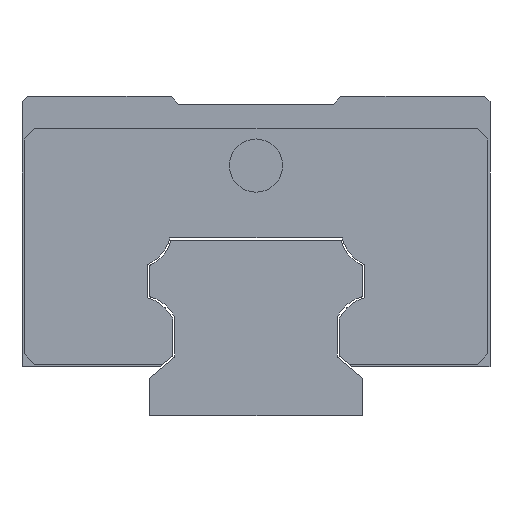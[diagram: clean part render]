
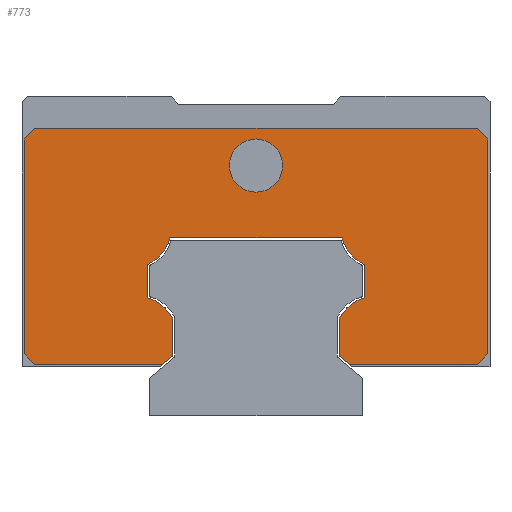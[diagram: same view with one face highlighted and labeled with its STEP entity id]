
A CAD part, left-side view. The second image highlights one B-rep face of the part: STEP entity #773.
In plain terms, the highlighted planar face has unit normal (-1, 0, 0).
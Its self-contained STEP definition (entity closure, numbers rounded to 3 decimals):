
#588=FACE_BOUND('',#1059,.T.);
#589=FACE_BOUND('',#1060,.T.);
#773=ADVANCED_FACE('',(#588,#589),#899,.F.);
#899=PLANE('',#2773);
#1059=EDGE_LOOP('',(#1426));
#1060=EDGE_LOOP('',(#1427,#1428,#1429,#1430,#1431,#1432,#1433,#1434,#1435,
#1436,#1437,#1438,#1439,#1440,#1441,#1442,#1443,#1444,#1445,#1446));
#1240=CIRCLE('',#2757,3.7);
#1241=CIRCLE('',#2760,3.7);
#1242=CIRCLE('',#2763,3.7);
#1243=CIRCLE('',#2766,3.7);
#1244=CIRCLE('',#2772,2.5);
#1426=ORIENTED_EDGE('',*,*,#2175,.F.);
#1427=ORIENTED_EDGE('',*,*,#2173,.F.);
#1428=ORIENTED_EDGE('',*,*,#2176,.T.);
#1429=ORIENTED_EDGE('',*,*,#2168,.F.);
#1430=ORIENTED_EDGE('',*,*,#2167,.F.);
#1431=ORIENTED_EDGE('',*,*,#2160,.F.);
#1432=ORIENTED_EDGE('',*,*,#2154,.F.);
#1433=ORIENTED_EDGE('',*,*,#2153,.F.);
#1434=ORIENTED_EDGE('',*,*,#2145,.F.);
#1435=ORIENTED_EDGE('',*,*,#2144,.F.);
#1436=ORIENTED_EDGE('',*,*,#2136,.F.);
#1437=ORIENTED_EDGE('',*,*,#2135,.F.);
#1438=ORIENTED_EDGE('',*,*,#2127,.F.);
#1439=ORIENTED_EDGE('',*,*,#2125,.F.);
#1440=ORIENTED_EDGE('',*,*,#2120,.F.);
#1441=ORIENTED_EDGE('',*,*,#2112,.F.);
#1442=ORIENTED_EDGE('',*,*,#2177,.T.);
#1443=ORIENTED_EDGE('',*,*,#2108,.F.);
#1444=ORIENTED_EDGE('',*,*,#2178,.T.);
#1445=ORIENTED_EDGE('',*,*,#2104,.F.);
#1446=ORIENTED_EDGE('',*,*,#2179,.T.);
#1900=VERTEX_POINT('',#3629);
#1901=VERTEX_POINT('',#3631);
#1904=VERTEX_POINT('',#3638);
#1905=VERTEX_POINT('',#3640);
#1908=VERTEX_POINT('',#3647);
#1909=VERTEX_POINT('',#3649);
#1910=VERTEX_POINT('',#3653);
#1916=VERTEX_POINT('',#3667);
#1921=VERTEX_POINT('',#3679);
#1922=VERTEX_POINT('',#3683);
#1927=VERTEX_POINT('',#3696);
#1928=VERTEX_POINT('',#3700);
#1933=VERTEX_POINT('',#3713);
#1934=VERTEX_POINT('',#3717);
#1939=VERTEX_POINT('',#3730);
#1940=VERTEX_POINT('',#3734);
#1944=VERTEX_POINT('',#3744);
#1950=VERTEX_POINT('',#3758);
#1954=VERTEX_POINT('',#3767);
#1955=VERTEX_POINT('',#3769);
#1956=VERTEX_POINT('',#3773);
#2104=EDGE_CURVE('',#1900,#1901,#2381,.T.);
#2108=EDGE_CURVE('',#1904,#1905,#2385,.T.);
#2112=EDGE_CURVE('',#1908,#1909,#2389,.T.);
#2120=EDGE_CURVE('',#1909,#1910,#2397,.T.);
#2125=EDGE_CURVE('',#1910,#1916,#2402,.T.);
#2127=EDGE_CURVE('',#1916,#1921,#1240,.T.);
#2135=EDGE_CURVE('',#1921,#1922,#2410,.T.);
#2136=EDGE_CURVE('',#1922,#1927,#1241,.T.);
#2144=EDGE_CURVE('',#1927,#1928,#2418,.T.);
#2145=EDGE_CURVE('',#1928,#1933,#1242,.T.);
#2153=EDGE_CURVE('',#1933,#1934,#2426,.T.);
#2154=EDGE_CURVE('',#1934,#1939,#1243,.T.);
#2160=EDGE_CURVE('',#1939,#1940,#2432,.T.);
#2167=EDGE_CURVE('',#1940,#1944,#2439,.T.);
#2168=EDGE_CURVE('',#1944,#1950,#2440,.T.);
#2173=EDGE_CURVE('',#1954,#1955,#2445,.T.);
#2175=EDGE_CURVE('',#1956,#1956,#1244,.T.);
#2176=EDGE_CURVE('',#1954,#1950,#2447,.T.);
#2177=EDGE_CURVE('',#1908,#1905,#2448,.T.);
#2178=EDGE_CURVE('',#1904,#1901,#2449,.T.);
#2179=EDGE_CURVE('',#1900,#1955,#2450,.T.);
#2381=LINE('',#3630,#2565);
#2385=LINE('',#3639,#2569);
#2389=LINE('',#3648,#2573);
#2397=LINE('',#3664,#2581);
#2402=LINE('',#3674,#2586);
#2410=LINE('',#3693,#2594);
#2418=LINE('',#3710,#2602);
#2426=LINE('',#3727,#2610);
#2432=LINE('',#3741,#2616);
#2439=LINE('',#3755,#2623);
#2440=LINE('',#3757,#2624);
#2445=LINE('',#3768,#2629);
#2447=LINE('',#3774,#2631);
#2448=LINE('',#3775,#2632);
#2449=LINE('',#3776,#2633);
#2450=LINE('',#3777,#2634);
#2565=VECTOR('',#2990,1.);
#2569=VECTOR('',#2996,1.);
#2573=VECTOR('',#3002,1.);
#2581=VECTOR('',#3012,1.);
#2586=VECTOR('',#3019,1.);
#2594=VECTOR('',#3035,1.);
#2602=VECTOR('',#3049,1.);
#2610=VECTOR('',#3063,1.);
#2616=VECTOR('',#3075,1.);
#2623=VECTOR('',#3084,1.);
#2624=VECTOR('',#3087,1.);
#2629=VECTOR('',#3094,1.);
#2631=VECTOR('',#3100,1.);
#2632=VECTOR('',#3101,1.);
#2633=VECTOR('',#3102,1.);
#2634=VECTOR('',#3103,1.);
#2757=AXIS2_PLACEMENT_3D('',#3678,#3024,#3025);
#2760=AXIS2_PLACEMENT_3D('',#3695,#3038,#3039);
#2763=AXIS2_PLACEMENT_3D('',#3712,#3052,#3053);
#2766=AXIS2_PLACEMENT_3D('',#3729,#3066,#3067);
#2772=AXIS2_PLACEMENT_3D('',#3772,#3098,#3099);
#2773=AXIS2_PLACEMENT_3D('',#3778,#3104,#3105);
#2990=DIRECTION('',(0.,-1.,0.));
#2996=DIRECTION('',(0.,0.,-1.));
#3002=DIRECTION('',(0.,1.,0.));
#3012=DIRECTION('',(0.,0.766,0.643));
#3019=DIRECTION('',(0.,0.,1.));
#3024=DIRECTION('',(1.,0.,0.));
#3025=DIRECTION('',(0.,1.,0.));
#3035=DIRECTION('',(0.,0.,1.));
#3038=DIRECTION('',(1.,0.,0.));
#3039=DIRECTION('',(0.,1.,0.));
#3049=DIRECTION('',(0.,1.,0.));
#3052=DIRECTION('',(1.,0.,0.));
#3053=DIRECTION('',(0.,-1.,0.));
#3063=DIRECTION('',(0.,0.,-1.));
#3066=DIRECTION('',(1.,0.,0.));
#3067=DIRECTION('',(0.,-1.,0.));
#3075=DIRECTION('',(0.,0.,-1.));
#3084=DIRECTION('',(0.,0.766,-0.643));
#3087=DIRECTION('',(0.,1.,0.));
#3094=DIRECTION('',(0.,0.,1.));
#3098=DIRECTION('',(-1.,0.,0.));
#3099=DIRECTION('',(0.,1.,0.));
#3100=DIRECTION('',(0.,-0.707,-0.707));
#3101=DIRECTION('',(0.,-0.707,0.707));
#3102=DIRECTION('',(0.,0.707,0.707));
#3103=DIRECTION('',(0.,0.707,-0.707));
#3104=DIRECTION('',(1.,0.,0.));
#3105=DIRECTION('',(0.,0.,-1.));
#3629=CARTESIAN_POINT('',(-37.8,20.8,27.));
#3630=CARTESIAN_POINT('',(-37.8,21.8,27.));
#3631=CARTESIAN_POINT('',(-37.8,-20.8,27.));
#3638=CARTESIAN_POINT('',(-37.8,-21.8,26.));
#3639=CARTESIAN_POINT('',(-37.8,-21.8,27.));
#3640=CARTESIAN_POINT('',(-37.8,-21.8,5.8));
#3647=CARTESIAN_POINT('',(-37.8,-20.8,4.8));
#3648=CARTESIAN_POINT('',(-37.8,-21.8,4.8));
#3649=CARTESIAN_POINT('',(-37.8,-8.762,4.8));
#3653=CARTESIAN_POINT('',(-37.8,-7.816,5.593));
#3664=CARTESIAN_POINT('',(-37.8,-8.762,4.8));
#3667=CARTESIAN_POINT('',(-37.8,-7.816,9.073));
#3674=CARTESIAN_POINT('',(-37.8,-7.816,5.593));
#3678=CARTESIAN_POINT('',(-37.8,-11.166,7.502));
#3679=CARTESIAN_POINT('',(-37.8,-10.2,11.073));
#3683=CARTESIAN_POINT('',(-37.8,-10.2,14.189));
#3693=CARTESIAN_POINT('',(-37.8,-10.2,11.073));
#3695=CARTESIAN_POINT('',(-37.8,-11.688,17.577));
#3696=CARTESIAN_POINT('',(-37.8,-8.093,16.7));
#3700=CARTESIAN_POINT('',(-37.8,8.093,16.7));
#3710=CARTESIAN_POINT('',(-37.8,-8.093,16.7));
#3712=CARTESIAN_POINT('',(-37.8,11.688,17.577));
#3713=CARTESIAN_POINT('',(-37.8,10.2,14.189));
#3717=CARTESIAN_POINT('',(-37.8,10.2,11.073));
#3727=CARTESIAN_POINT('',(-37.8,10.2,14.189));
#3729=CARTESIAN_POINT('',(-37.8,11.166,7.502));
#3730=CARTESIAN_POINT('',(-37.8,7.816,9.073));
#3734=CARTESIAN_POINT('',(-37.8,7.816,5.593));
#3741=CARTESIAN_POINT('',(-37.8,7.816,9.073));
#3744=CARTESIAN_POINT('',(-37.8,8.762,4.8));
#3755=CARTESIAN_POINT('',(-37.8,7.816,5.593));
#3757=CARTESIAN_POINT('',(-37.8,8.762,4.8));
#3758=CARTESIAN_POINT('',(-37.8,20.8,4.8));
#3767=CARTESIAN_POINT('',(-37.8,21.8,5.8));
#3768=CARTESIAN_POINT('',(-37.8,21.8,4.8));
#3769=CARTESIAN_POINT('',(-37.8,21.8,26.));
#3772=CARTESIAN_POINT('',(-37.8,0.,23.5));
#3773=CARTESIAN_POINT('',(-37.8,2.5,23.5));
#3774=CARTESIAN_POINT('',(-37.8,20.8,4.8));
#3775=CARTESIAN_POINT('',(-37.8,-21.8,5.8));
#3776=CARTESIAN_POINT('',(-37.8,-20.8,27.));
#3777=CARTESIAN_POINT('',(-37.8,21.8,26.));
#3778=CARTESIAN_POINT('',(-37.8,-11.166,7.502));
